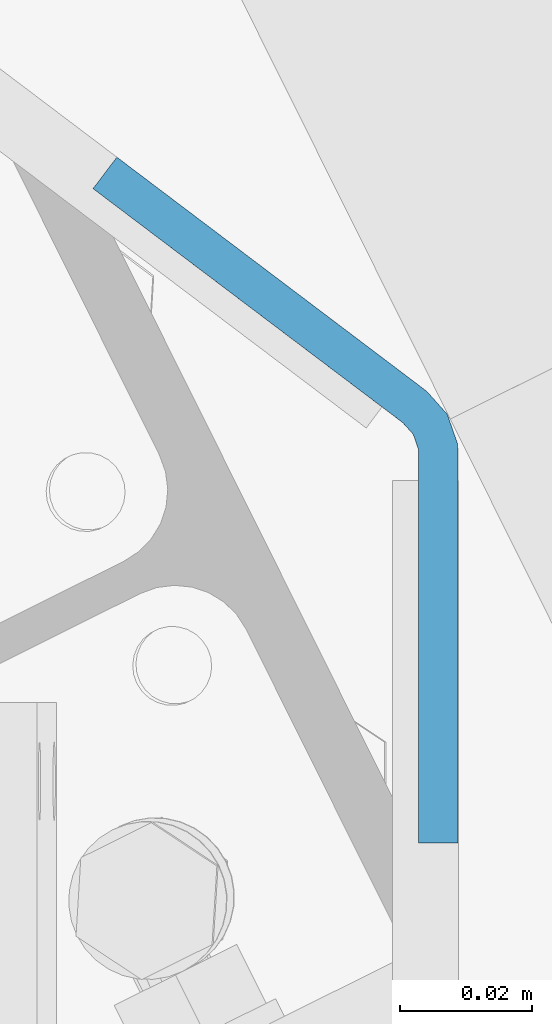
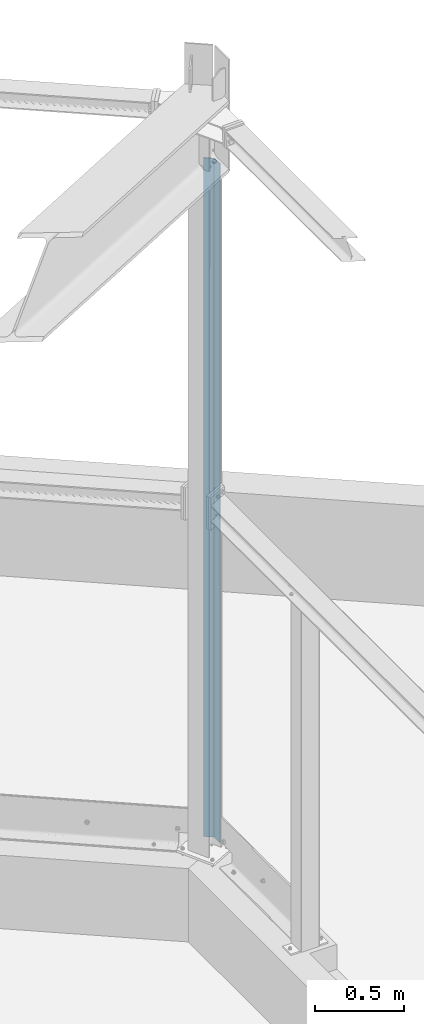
# One storey, part 83 of 476: 1 plate.
"""IFC2X3 building model written with IfcOpenShell, lengths in millimetres."""

from ifc_helpers import new_model, entity, si_unit, converted_unit, origin_with_axes, place, context, project, spatial, faceted_brep, material, layer, layer_set, element, save


model = new_model("IFC2X3")

# Units and contexts
model_context = context("Model", 3, precision=1e-09, world=origin_with_axes())
ifc_project = project(units=[si_unit("LENGTHUNIT", "METRE", prefix="MILLI"), si_unit("AREAUNIT", "SQUARE_METRE"), si_unit("VOLUMEUNIT", "CUBIC_METRE"), converted_unit("PLANEANGLEUNIT", "DEGREE", entity("IfcPlaneAngleMeasure", 0.01745329), si_unit("PLANEANGLEUNIT", "RADIAN"), dimensions=[0, 0, 0, 0, 0, 0, 0])], contexts=[model_context])

# Site, building, storey
site_placement = place(None, origin_with_axes())
site = spatial("IfcSite", under=ifc_project, at=site_placement, Name="mKR Teilneubau & Sanierung BA1 - Ostfildern", CompositionType="ELEMENT")
building_placement = place(site_placement, origin_with_axes())
building = spatial("IfcBuilding", under=site, at=building_placement, Name="Struktur 1", CompositionType="ELEMENT")
storey_placement = place(building_placement, origin_with_axes())
storey = spatial("IfcBuildingStorey", under=building, at=storey_placement, Name="Default Storey", CompositionType="ELEMENT", Elevation=0.0)

# Plate
ifc_material = material(Name="S235JR")
ifc_layer = layer(ifc_material, 6.0)
ifc_layer_set = layer_set([ifc_layer], Name="S235JR")
plate_placement = place(None, origin_with_axes())
element("IfcPlate", 1, at=plate_placement, inside=storey, material=ifc_layer_set, Name="-", ObjectType="-", context=model_context, shape_type="Brep", body=[
    faceted_brep([(22023.709152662, 953.754433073, 560.000997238), (22023.709699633, 953.754705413, 5189.861370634), (21976.622999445, 989.33145085, 5189.861374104), (21976.622452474, 989.33117851, 560.001000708), (22027.326706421, 958.541903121, 5189.861369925), (21980.240006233, 994.118648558, 5189.861373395), (22027.32615945, 958.541630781, 560.000996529), (21980.239459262, 994.118376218, 560.000999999)], [[[0, 1, 2, 3]], [[1, 4, 5, 2]], [[4, 6, 7, 5]], [[6, 0, 3, 7]], [[6, 4, 1, 0]], [[7, 3, 2, 5]]]),
    faceted_brep([(22023.709699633, 953.754705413, 5189.861370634), (22023.709152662, 953.754433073, 560.000997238), (22025.265805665, 952.005860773, 560.000997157), (22025.266352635, 952.006133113, 5189.861370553), (22026.034815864, 949.7946853, 560.000997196), (22026.035362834, 949.79495764, 5189.861370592), (22026.092145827, 948.967987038, 560.000997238), (22026.092692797, 948.968259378, 5189.861370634), (22032.09214578, 948.96873871, 560.000996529), (22032.09269275, 948.96901105, 5189.861369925), (22031.977485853, 950.622135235, 560.000996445), (22031.978032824, 950.622407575, 5189.861369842), (22030.439465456, 955.044486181, 560.000996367), (22030.440012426, 955.044758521, 5189.861369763), (22027.32615945, 958.541630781, 560.000996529), (22027.326706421, 958.541903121, 5189.861369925)], [[[0, 1, 2, 3]], [[3, 2, 4, 5]], [[5, 4, 6, 7]], [[7, 6, 8, 9]], [[9, 8, 10, 11]], [[11, 10, 12, 13]], [[13, 12, 14, 15]], [[15, 14, 1, 0]], [[4, 2, 1, 14, 12, 10, 8, 6]], [[0, 3, 5, 7, 9, 11, 13, 15]]]),
    faceted_brep([(22032.09214578, 948.96873871, 560.000996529), (22032.09269275, 948.96901105, 5189.861369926), (22032.100086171, 889.953232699, 5189.861373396), (22032.099539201, 889.952960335, 560.001), (22026.092692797, 948.968259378, 5189.861370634), (22026.100086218, 889.952481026, 5189.861374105), (22026.092145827, 948.967987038, 560.000997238), (22026.099539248, 889.952208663, 560.001000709)], [[[0, 1, 2, 3]], [[1, 4, 5, 2]], [[4, 6, 7, 5]], [[6, 0, 3, 7]], [[1, 0, 6, 4]], [[7, 3, 2, 5]]]),
])

save(model, "model.ifc")
